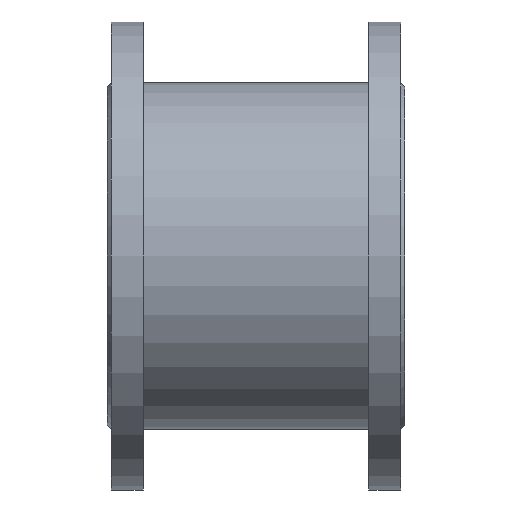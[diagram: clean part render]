
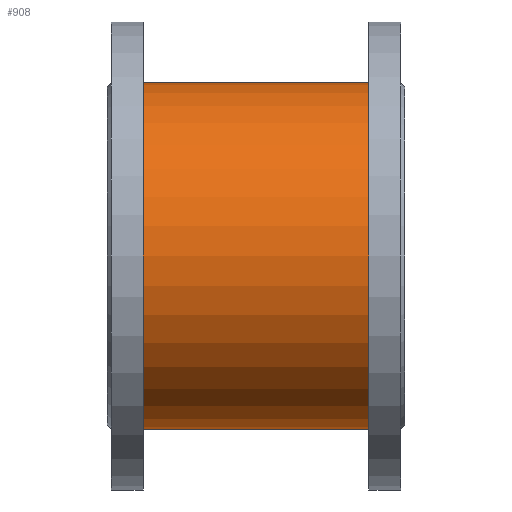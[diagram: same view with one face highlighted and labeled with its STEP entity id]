
A CAD part, front view. The second image highlights one B-rep face of the part: STEP entity #908.
In plain terms, the highlighted cylindrical face has radius 81.5 mm (diameter 163 mm), a partial arc.
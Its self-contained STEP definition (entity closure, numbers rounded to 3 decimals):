
#71 = CARTESIAN_POINT ( 'NONE',  ( -53., 0., 81.5 ) ) ;
#160 = DIRECTION ( 'NONE',  ( -1., 0., 0. ) ) ;
#210 = CIRCLE ( 'NONE', #2973, 81.5 ) ;
#249 = LINE ( 'NONE', #1861, #2954 ) ;
#266 = EDGE_LOOP ( 'NONE', ( #471, #2608, #1727, #859 ) ) ;
#371 = DIRECTION ( 'NONE',  ( -1., 0., 0. ) ) ;
#471 = ORIENTED_EDGE ( 'NONE', *, *, #2753, .F. ) ;
#510 = AXIS2_PLACEMENT_3D ( 'NONE', #1807, #160, #2083 ) ;
#533 = AXIS2_PLACEMENT_3D ( 'NONE', #3058, #371, #2790 ) ;
#560 = CYLINDRICAL_SURFACE ( 'NONE', #533, 81.5 ) ;
#583 = EDGE_CURVE ( 'NONE', #3098, #1418, #210, .T. ) ;
#649 = FACE_OUTER_BOUND ( 'NONE', #266, .T. ) ;
#859 = ORIENTED_EDGE ( 'NONE', *, *, #1746, .F. ) ;
#908 = ADVANCED_FACE ( 'NONE', ( #649 ), #560, .T. ) ;
#997 = CIRCLE ( 'NONE', #510, 81.5 ) ;
#1007 = CARTESIAN_POINT ( 'NONE',  ( 53., 0., 81.5 ) ) ;
#1324 = DIRECTION ( 'NONE',  ( -1., 0., 0. ) ) ;
#1418 = VERTEX_POINT ( 'NONE', #1007 ) ;
#1449 = CARTESIAN_POINT ( 'NONE',  ( -53., 0., -81.5 ) ) ;
#1461 = CARTESIAN_POINT ( 'NONE',  ( -74.482, 0., 81.5 ) ) ;
#1556 = VERTEX_POINT ( 'NONE', #1449 ) ;
#1583 = CARTESIAN_POINT ( 'NONE',  ( 53., 0., 0. ) ) ;
#1727 = ORIENTED_EDGE ( 'NONE', *, *, #2869, .T. ) ;
#1746 = EDGE_CURVE ( 'NONE', #1556, #2421, #997, .T. ) ;
#1807 = CARTESIAN_POINT ( 'NONE',  ( -53., 0., 0. ) ) ;
#1851 = DIRECTION ( 'NONE',  ( 0., 0., 1. ) ) ;
#1861 = CARTESIAN_POINT ( 'NONE',  ( -74.482, 0., -81.5 ) ) ;
#1915 = VECTOR ( 'NONE', #3333, 1000. ) ;
#2083 = DIRECTION ( 'NONE',  ( 0., 0., 1. ) ) ;
#2421 = VERTEX_POINT ( 'NONE', #71 ) ;
#2545 = LINE ( 'NONE', #1461, #1915 ) ;
#2608 = ORIENTED_EDGE ( 'NONE', *, *, #583, .T. ) ;
#2753 = EDGE_CURVE ( 'NONE', #3098, #1556, #249, .T. ) ;
#2774 = CARTESIAN_POINT ( 'NONE',  ( 53., 0., -81.5 ) ) ;
#2790 = DIRECTION ( 'NONE',  ( 0., 0., 1. ) ) ;
#2869 = EDGE_CURVE ( 'NONE', #1418, #2421, #2545, .T. ) ;
#2954 = VECTOR ( 'NONE', #1324, 1000. ) ;
#2973 = AXIS2_PLACEMENT_3D ( 'NONE', #1583, #3464, #1851 ) ;
#3058 = CARTESIAN_POINT ( 'NONE',  ( -74.482, 0., 0. ) ) ;
#3098 = VERTEX_POINT ( 'NONE', #2774 ) ;
#3333 = DIRECTION ( 'NONE',  ( -1., 0., 0. ) ) ;
#3464 = DIRECTION ( 'NONE',  ( -1., 0., 0. ) ) ;
